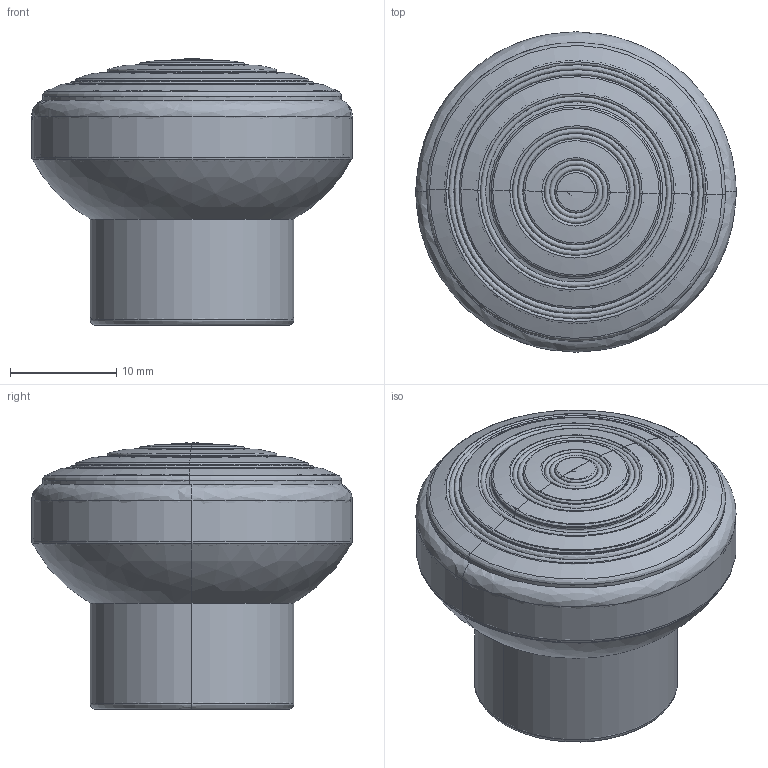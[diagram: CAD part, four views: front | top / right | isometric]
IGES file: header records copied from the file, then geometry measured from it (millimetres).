
Start section: Comment
Global section: file name: 028-30I.igs; native system: Parasolid(12.0); preprocessor: Pariges 4.4; author: Author; organization: Title; date: 20151008.124706; units: millimetre
Bounding box: 30.2 x 30.2 x 25.1 mm (x, y, z)
Surface area: 10322.4 mm2 (no closed solid volume)
Topology: 0 solids, 0 shells, 188 faces, 2003 edges, 1945 vertices
Faces by surface type: revolution 130, bspline 32, extrusion 26
